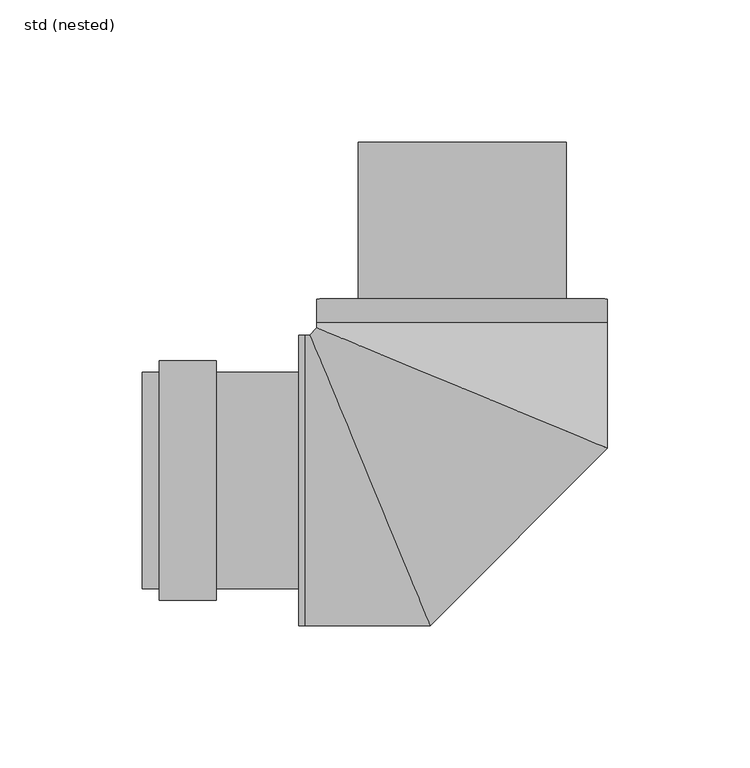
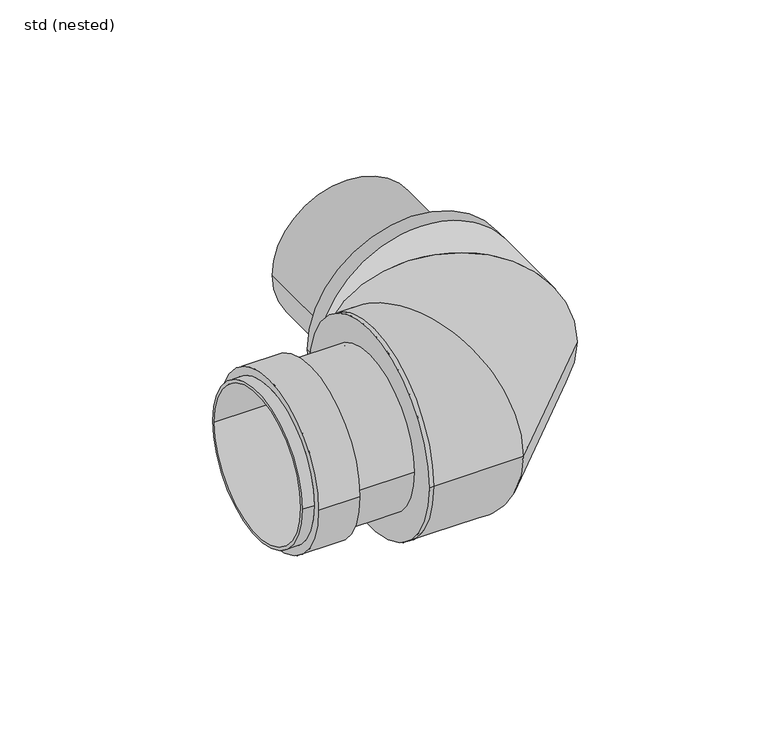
"""IFC4 building model written with IfcOpenShell, lengths in millimetres: pipe fitting geometry, ZZZ_do not use_PIF_ST_WPB_GM-X compound pipe bend_ACO : std (nested)."""

import ifcopenshell
import ifcopenshell.guid

model = None  # the IFC model being written
_history = None  # IfcOwnerHistory: only IFC2X3 demands one
_inside = {}  # id of a spatial element -> (the spatial element, [elements in it])
_under = {}  # id of a project, library or spatial element -> (it, [spatial elements below it])
_declared = {}  # id of a project -> (the project, [libraries it declares])
_typed = {}  # id of a type object -> (the type object, [elements of that type])
_made_of = {}  # id of a material, layer set ... -> (it, [elements and type objects made of it])


def new_model(schema):
    """Start an empty IFC model of exactly this schema.

    Asked for "IFC4X3", IfcOpenShell would pick the latest addendum, in which some entities
    have other attributes; the version numbers below select the first issue.
    IFC2X3 requires an IfcOwnerHistory on every rooted entity: one is made here for all.
    """
    global model, _history
    if schema == "IFC4X3":
        model = ifcopenshell.file(schema_version=(4, 3, 0, 0))
    else:
        model = ifcopenshell.file(schema=schema)
    _inside.clear()
    _under.clear()
    _declared.clear()
    _typed.clear()
    _made_of.clear()
    _history = None
    if model.schema == "IFC2X3":
        org = make("IfcOrganization", Name="unknown")
        user = make(
            "IfcPersonAndOrganization",
            ThePerson=make("IfcPerson", FamilyName="unknown"),
            TheOrganization=org,
        )
        app = make(
            "IfcApplication",
            ApplicationDeveloper=org,
            Version="unknown",
            ApplicationFullName="unknown",
            ApplicationIdentifier="unknown",
        )
        _history = make(
            "IfcOwnerHistory",
            OwningUser=user,
            OwningApplication=app,
            ChangeAction="ADDED",
            CreationDate=0,
        )
    return model


def make(cls, **values):
    """One entity of the class cls with the attributes given. An attribute that is None is left unset."""
    return model.create_entity(
        cls, **{name: value for name, value in values.items() if value is not None}
    )


def rooted(cls, **values):
    """An entity with a GlobalId (a new one), such as an element, a storey or a relation."""
    return make(cls, GlobalId=ifcopenshell.guid.new(), OwnerHistory=_history, **values)


def si_unit(unit_type, name, prefix=None):
    """IfcSIUnit, for example si_unit("LENGTHUNIT", "METRE", prefix="MILLI")."""
    return make("IfcSIUnit", UnitType=unit_type, Prefix=prefix, Name=name)


def assignment(units):
    """IfcUnitAssignment: the units of a project."""
    return None if units is None else make("IfcUnitAssignment", Units=units)


def point(xyz):
    """IfcCartesianPoint."""
    return None if xyz is None else make("IfcCartesianPoint", Coordinates=xyz)


def direction(xyz):
    """IfcDirection."""
    return None if xyz is None else make("IfcDirection", DirectionRatios=xyz)


def frame(location, z_axis=None, x_axis=None):
    """IfcAxis2Placement3D, a coordinate frame: its origin and axes. An axis left out is left unset."""
    return make(
        "IfcAxis2Placement3D",
        Location=point(location),
        Axis=direction(z_axis),
        RefDirection=direction(x_axis),
    )


def frame_2d(location, x_axis=None):
    """IfcAxis2Placement2D, a coordinate frame in the plane: its origin and x axis."""
    return make(
        "IfcAxis2Placement2D", Location=point(location), RefDirection=direction(x_axis)
    )


def origin():
    """The frame at (0, 0, 0) with its axes left unset."""
    return frame((0.0, 0.0, 0.0))


def origin_2d():
    """The frame at (0, 0) in the plane with its x axis left unset."""
    return frame_2d((0.0, 0.0))


def place(relative_to, where):
    """IfcLocalPlacement: puts the frame where relative to a parent placement (None: the world)."""
    return make(
        "IfcLocalPlacement", PlacementRelTo=relative_to, RelativePlacement=where
    )


def context(
    kind, dimensions, precision=None, world=None, true_north=None, identifier=None
):
    """IfcGeometricRepresentationContext, for example the 3D "Model" context."""
    return make(
        "IfcGeometricRepresentationContext",
        ContextIdentifier=identifier,
        ContextType=kind,
        CoordinateSpaceDimension=dimensions,
        Precision=precision,
        WorldCoordinateSystem=world,
        TrueNorth=true_north,
    )


def project(units=None, contexts=None):
    """IfcProject with its units and contexts."""
    return rooted(
        "IfcProject",
        Name="project",
        RepresentationContexts=contexts,
        UnitsInContext=assignment(units),
    )


def spatial(cls, under=None, at=None, **own):
    """A site, building, storey or space (cls), placed at a placement, below another one or the project."""
    s = rooted(cls, ObjectPlacement=at, **own)
    if under is not None:
        _under.setdefault(under.id(), (under, []))[1].append(s)
    return s


def polyline(points):
    """IfcPolyline through the points."""
    return make("IfcPolyline", Points=[point(p) for p in points])


def circle_curve(where, radius):
    """IfcCircle in the frame where."""
    return make("IfcCircle", Position=where, Radius=radius)


def ellipse_curve(where, semi_axis1, semi_axis2):
    """IfcEllipse in the frame where."""
    return make(
        "IfcEllipse", Position=where, SemiAxis1=semi_axis1, SemiAxis2=semi_axis2
    )


def trimmed(basis, trim1, trim2, sense, master):
    """IfcTrimmedCurve: the piece of a basis curve between two trims."""
    return make(
        "IfcTrimmedCurve",
        BasisCurve=basis,
        Trim1=trim1,
        Trim2=trim2,
        SenseAgreement=sense,
        MasterRepresentation=master,
    )


def segment(curve, same_sense, transition):
    """IfcCompositeCurveSegment."""
    return make(
        "IfcCompositeCurveSegment",
        Transition=transition,
        SameSense=same_sense,
        ParentCurve=curve,
    )


def composite_curve(segments, self_intersect=None):
    """IfcCompositeCurve: segments joined end to end."""
    return make("IfcCompositeCurve", Segments=segments, SelfIntersect=self_intersect)


def outline(outer, holes=None, kind="AREA"):
    """IfcArbitraryClosedProfileDef: a profile drawn as a closed curve; with holes, ...WithVoids."""
    if holes is None:
        return make("IfcArbitraryClosedProfileDef", ProfileType=kind, OuterCurve=outer)
    return make(
        "IfcArbitraryProfileDefWithVoids",
        ProfileType=kind,
        OuterCurve=outer,
        InnerCurves=holes,
    )


def extrude(swept, where, along, depth):
    """IfcExtrudedAreaSolid: the profile swept, set in the frame where, extruded along a direction by depth."""
    return make(
        "IfcExtrudedAreaSolid",
        SweptArea=swept,
        Position=where,
        ExtrudedDirection=direction(along),
        Depth=depth,
    )


def shape(context_of_items, identifier, shape_type, items):
    """IfcShapeRepresentation: the items that make up one representation, for example the "Body"."""
    return make(
        "IfcShapeRepresentation",
        ContextOfItems=context_of_items,
        RepresentationIdentifier=identifier,
        RepresentationType=shape_type,
        Items=items,
    )


def source(mapping_origin, context_of_items, identifier, shape_type, items):
    """IfcRepresentationMap: a shape defined once, which mapped items show again and again."""
    return make(
        "IfcRepresentationMap",
        MappingOrigin=mapping_origin,
        MappedRepresentation=shape(context_of_items, identifier, shape_type, items),
    )


def transform(
    local_origin,
    x_axis=None,
    y_axis=None,
    z_axis=None,
    scale=None,
    scale2=None,
    scale3=None,
    uniform=True,
):
    """IfcCartesianTransformationOperator3D, or its non-uniform kind. x_axis, y_axis, z_axis: its Axis1, 2, 3."""
    if uniform:
        return make(
            "IfcCartesianTransformationOperator3D",
            Axis1=direction(x_axis),
            Axis2=direction(y_axis),
            LocalOrigin=point(local_origin),
            Scale=scale,
            Axis3=direction(z_axis),
        )
    return make(
        "IfcCartesianTransformationOperator3DnonUniform",
        Axis1=direction(x_axis),
        Axis2=direction(y_axis),
        LocalOrigin=point(local_origin),
        Scale=scale,
        Axis3=direction(z_axis),
        Scale2=scale2,
        Scale3=scale3,
    )


def mapped(mapping_source, mapping_target):
    """IfcMappedItem: shows the shape of a source again, moved by a transform."""
    return make(
        "IfcMappedItem", MappingSource=mapping_source, MappingTarget=mapping_target
    )


def made_of(thing, what):
    """Note that an element or type object is made of a material, layer set ...; save() writes the relation."""
    if what is not None:
        _made_of.setdefault(what.id(), (what, []))[1].append(thing)
    return thing


def element(
    cls,
    number,
    at=None,
    inside=None,
    cuts=None,
    type_object=None,
    material=None,
    context=None,
    identifier="Body",
    shape_type=None,
    held_by="IfcProductDefinitionShape",
    body=None,
    shapes=None,
    **own,
):
    """One element of the class cls, such as IfcWall. Its Tag is "e" and its number.

    at: its placement. inside: the storey or other place that contains it. cuts: it is an
    opening in that element (IfcRelVoidsElement). A single representation is given by context,
    identifier, shape_type and body (its items); several are given by shapes. held_by: the class
    of the entity that holds the representations. save() writes the other relations.
    """
    e = rooted(cls, Tag="e%d" % number, ObjectPlacement=at, **own)
    if body is not None:
        shapes = [shape(context, identifier, shape_type, body)]
    if shapes is not None:
        e.Representation = make(held_by, Representations=shapes)
    if inside is not None:
        _inside.setdefault(inside.id(), (inside, []))[1].append(e)
    if cuts is not None:
        rooted(
            "IfcRelVoidsElement", RelatingBuildingElement=cuts, RelatedOpeningElement=e
        )
    if type_object is not None:
        _typed.setdefault(type_object.id(), (type_object, []))[1].append(e)
    return made_of(e, material)


def aggregate(whole, parts):
    """IfcRelAggregates: a whole, such as a stair, and the parts it consists of."""
    return rooted("IfcRelAggregates", RelatingObject=whole, RelatedObjects=parts)


def save(model, path):
    """Write the relations noted so far, then the file.

    IfcRelAggregates (storeys below a building ...), IfcRelContainedInSpatialStructure (elements
    in a storey), IfcRelDefinesByType, IfcRelAssociatesMaterial and IfcRelDeclares: one each for
    every whole, place, type object, material and project.
    """
    for whole, parts in _under.values():
        aggregate(whole, parts)
    for where, things in _inside.values():
        rooted(
            "IfcRelContainedInSpatialStructure",
            RelatedElements=things,
            RelatingStructure=where,
        )
    for kind, things in _typed.values():
        rooted("IfcRelDefinesByType", RelatedObjects=things, RelatingType=kind)
    for what, things in _made_of.values():
        rooted("IfcRelAssociatesMaterial", RelatedObjects=things, RelatingMaterial=what)
    for by, libraries in _declared.values():
        rooted("IfcRelDeclares", RelatingContext=by, RelatedDefinitions=libraries)
    model.write(path)


def plane_surface(at):
    """IfcPlane: the flat surface through the origin of the frame at, square to its z axis."""
    return make("IfcPlane", Position=at)


def cylinder_surface(at, radius):
    """IfcCylindricalSurface: all points at the distance radius from the z axis of the frame at."""
    return make("IfcCylindricalSurface", Position=at, Radius=radius)


def revolved_surface(curve, axis_point, axis_direction):
    """IfcSurfaceOfRevolution: the curve turned about the line through axis_point along axis_direction."""
    return make(
        "IfcSurfaceOfRevolution",
        SweptCurve=make("IfcArbitraryOpenProfileDef", ProfileType="CURVE", Curve=curve),
        AxisPosition=make("IfcAxis1Placement", Location=point(axis_point), Axis=direction(axis_direction)),
    )


def advanced_brep(points, edges, surfaces, faces):
    """IfcAdvancedBrep: a solid bounded by faces that lie on surfaces and meet in shared edges.

    An edge is (start, end): straight between two places in points (the first is 0);
    or (start, end, curve); or (start, end, curve, False) where it runs against its curve.
    A face is (place in surfaces, loops), or (place, loops, False) where it looks against
    its surface's normal. A loop lists edges by number (the first is 1), with a minus sign
    where the edge is run from its end to its start. The first loop is the outer one.
    """
    corners = [point(p) for p in points]
    vertices = [make("IfcVertexPoint", VertexGeometry=c) for c in corners]
    made = []
    for start, end, *more in edges:
        made.append(
            make(
                "IfcEdgeCurve",
                EdgeStart=vertices[start],
                EdgeEnd=vertices[end],
                EdgeGeometry=more[0] if more else make("IfcPolyline", Points=[corners[start], corners[end]]),
                SameSense=more[1] if len(more) > 1 else True,
            )
        )
    hull = []
    for where, loops, *sense in faces:
        bounds = []
        for j, loop in enumerate(loops):
            ring = [make("IfcOrientedEdge", EdgeElement=made[abs(k) - 1], Orientation=k > 0) for k in loop]
            bounds.append(
                make(
                    "IfcFaceOuterBound" if j == 0 else "IfcFaceBound",
                    Bound=make("IfcEdgeLoop", EdgeList=ring),
                    Orientation=True,
                )
            )
        hull.append(make("IfcAdvancedFace", Bounds=bounds, FaceSurface=surfaces[where], SameSense=sense[0] if sense else True))
    return make("IfcAdvancedBrep", Outer=make("IfcClosedShell", CfsFaces=hull))


def std_nested_0bc2af1f(model_context):
    return source(origin(), model_context, "Body", "SolidModel", [
        advanced_brep(
        [(-106.4, -42.1, 0.0), (-106.4, 42.1, 0.0), (-86.3, 42.1, 0.0), (-86.3, -42.1, 0.0), (-112.3, 38.0, 0.0), (-112.3, -38.0, 0.0), (-112.3, -36.5, 0.0), (-112.3, 36.5, 0.0), (-57.3, 38.0, 0.0), (-57.3, -38.0, 0.0), (-57.3, 36.5, 0.0), (-57.3, -36.5, 0.0), (-106.4, 38.0, 0.0), (-106.4, -38.0, 0.0), (-86.3, -38.0, 0.0), (-86.3, 38.0, 0.0)],
        [
            (0, 1, circle_curve(frame((-106.4, 0.0, 0.0), z_axis=(1.0, 0.0, 0.0), x_axis=(0.0, -1.0, 0.0)), 42.1)),
            (1, 2),
            (2, 3, circle_curve(frame((-86.3, 0.0, 0.0), z_axis=(-1.0, 0.0, 0.0), x_axis=(0.0, -1.0, 0.0)), 42.1)),
            (3, 0),
            (1, 0, circle_curve(frame((-106.4, 0.0, 0.0), z_axis=(1.0, 0.0, 0.0), x_axis=(0.0, -1.0, 0.0)), 42.1)),
            (3, 2, circle_curve(frame((-86.3, 0.0, 0.0), z_axis=(-1.0, 0.0, 0.0), x_axis=(0.0, -1.0, 0.0)), 42.1)),
            (4, 5, circle_curve(frame((-112.3, 0.0, 0.0), z_axis=(-1.0, 0.0, 0.0), x_axis=(0.0, -1.0, 0.0)), 38.0)),
            (5, 4, circle_curve(frame((-112.3, 0.0, 0.0), z_axis=(-1.0, 0.0, 0.0), x_axis=(0.0, -1.0, 0.0)), 38.0)),
            (6, 7, circle_curve(frame((-112.3, 0.0, 0.0), z_axis=(1.0, 0.0, 0.0), x_axis=(0.0, -1.0, 0.0)), 36.5)),
            (7, 6, circle_curve(frame((-112.3, 0.0, 0.0), z_axis=(1.0, 0.0, 0.0), x_axis=(0.0, -1.0, 0.0)), 36.5)),
            (8, 9, circle_curve(frame((-57.3, 0.0, 0.0), z_axis=(1.0, 0.0, 0.0), x_axis=(0.0, -1.0, 0.0)), 38.0)),
            (9, 8, circle_curve(frame((-57.3, 0.0, 0.0), z_axis=(1.0, 0.0, 0.0), x_axis=(0.0, -1.0, 0.0)), 38.0)),
            (10, 11, circle_curve(frame((-57.3, 0.0, 0.0), z_axis=(-1.0, 0.0, 0.0), x_axis=(0.0, -1.0, 0.0)), 36.5)),
            (11, 10, circle_curve(frame((-57.3, 0.0, 0.0), z_axis=(-1.0, 0.0, 0.0), x_axis=(0.0, -1.0, 0.0)), 36.5)),
            (4, 12),
            (12, 13, circle_curve(frame((-106.4, 0.0, 0.0), z_axis=(-1.0, 0.0, 0.0), x_axis=(0.0, -1.0, 0.0)), 38.0)),
            (13, 5),
            (9, 14),
            (14, 15, circle_curve(frame((-86.3, 0.0, 0.0), z_axis=(1.0, 0.0, 0.0), x_axis=(0.0, -1.0, 0.0)), 38.0)),
            (15, 8),
            (13, 12, circle_curve(frame((-106.4, 0.0, 0.0), z_axis=(-1.0, 0.0, 0.0), x_axis=(0.0, -1.0, 0.0)), 38.0)),
            (15, 14, circle_curve(frame((-86.3, 0.0, 0.0), z_axis=(1.0, 0.0, 0.0), x_axis=(0.0, -1.0, 0.0)), 38.0)),
            (6, 11),
            (10, 7),
        ],
        [
            cylinder_surface(frame((-86.3, 0.0, 0.0), z_axis=(-1.0, 0.0, 0.0), x_axis=(0.0, -1.0, 0.0)), 42.1),
            plane_surface(frame((-112.3, -38.0, 0.0), z_axis=(-1.0, 0.0, 0.0), x_axis=(0.0, 0.0, 1.0))),
            plane_surface(frame((-57.3, -38.0, 0.0), z_axis=(1.0, 0.0, 0.0), x_axis=(0.0, 0.0, -1.0))),
            cylinder_surface(frame((-57.3, 0.0, 0.0), z_axis=(-1.0, 0.0, 0.0), x_axis=(0.0, -1.0, 0.0)), 38.0),
            revolved_surface(polyline([(-112.3, -36.5, 0.0), (-57.3, -36.5, 0.0)]), (-57.3, 0.0, 0.0), (-1.0, 0.0, 0.0)),
            plane_surface(frame((-106.4, -42.1, 0.0), z_axis=(-1.0, 0.0, 0.0), x_axis=(0.0, 0.0, 1.0))),
            plane_surface(frame((-86.3, -42.1, 0.0), z_axis=(1.0, 0.0, 0.0), x_axis=(0.0, 0.0, -1.0))),
        ],
        [
            (0, [[1, 2, 3, 4]]),
            (0, [[5, -4, 6, -2]]),
            (1, [[7, 8], [9, 10]]),
            (2, [[11, 12], [13, 14]]),
            (3, [[-7, 15, 16, 17]]),
            (3, [[-12, 18, 19, 20]]),
            (3, [[-8, -17, 21, -15]]),
            (3, [[-11, -20, 22, -18]]),
            (4, [[23, -13, 24, -9]]),
            (4, [[-23, -10, -24, -14]]),
            (5, [[-1, -5], [-16, -21]]),
            (6, [[-6, -3], [-19, -22]]),
        ],
    ),
        extrude(outline(composite_curve([segment(trimmed(circle_curve(origin_2d(), 36.5), [point((0.0, -36.5))], [point((0.0, 36.5))], False, "CARTESIAN"), True, "CONTINUOUS"), segment(trimmed(circle_curve(origin_2d(), 36.5), [point((0.0, 36.5))], [point((0.0, -36.5))], False, "CARTESIAN"), True, "CONTINUOUS")], self_intersect=False)), frame((0.0, 63.7, 0.0), z_axis=(0.0, 1.0, 0.0), x_axis=(0.0, 0.0, 1.0)), (0.0, 0.0, 1.0), 55.0),
        advanced_brep(
        [(-55.3, -51.0, 0.0), (-55.3, 51.0, 0.0), (-57.3, 51.0, 0.0), (-57.3, -51.0, 0.0), (-11.2690983, -51.0, 0.0), (-53.5188817, 51.0, 0.0), (51.0, 11.2690983, 0.0), (-51.0, 53.5188817, 0.0), (51.0, 55.3, 0.0), (-51.0, 55.3, 0.0), (-51.0, 63.7, 0.0), (51.0, 63.7, 0.0)],
        [
            (0, 1, circle_curve(frame((-55.3, 0.0, 0.0), z_axis=(-1.0, 0.0, 0.0), x_axis=(0.0, 1.0, 0.0)), 51.0)),
            (1, 2),
            (2, 3, circle_curve(frame((-57.3, 0.0, 0.0), z_axis=(1.0, 0.0, 0.0), x_axis=(0.0, 1.0, 0.0)), 51.0)),
            (3, 0),
            (1, 0, circle_curve(frame((-55.3, 0.0, 0.0), z_axis=(-1.0, 0.0, 0.0), x_axis=(0.0, 1.0, 0.0)), 51.0)),
            (3, 2, circle_curve(frame((-57.3, 0.0, 0.0), z_axis=(1.0, 0.0, 0.0), x_axis=(0.0, 1.0, 0.0)), 51.0)),
            (0, 4),
            (4, 5, ellipse_curve(frame((-32.39399, 0.0, 0.0), z_axis=(-0.9238795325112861, -0.38268343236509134, 0.0), x_axis=(-0.38268343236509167, 0.9238795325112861, 0.0)), 55.2020022, 51.0)),
            (5, 1),
            (5, 4, ellipse_curve(frame((-32.39399, 0.0, 0.0), z_axis=(-0.9238795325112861, -0.38268343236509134, 0.0), x_axis=(-0.38268343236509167, 0.9238795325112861, 0.0)), 55.2020022, 51.0)),
            (4, 6),
            (6, 7, ellipse_curve(frame((0.0, 32.39399, 0.0), z_axis=(-0.38268343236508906, -0.9238795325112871, 0.0), x_axis=(-0.923879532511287, 0.38268343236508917, 0.0)), 55.2020022, 51.0)),
            (7, 5),
            (7, 6, ellipse_curve(frame((0.0, 32.39399, 0.0), z_axis=(-0.38268343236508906, -0.9238795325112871, 0.0), x_axis=(-0.923879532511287, 0.38268343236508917, 0.0)), 55.2020022, 51.0)),
            (6, 8),
            (8, 9, circle_curve(frame((0.0, 55.3, 0.0), z_axis=(0.0, -1.0, 0.0), x_axis=(-1.0, 0.0, 0.0)), 51.0)),
            (9, 7),
            (9, 8, circle_curve(frame((0.0, 55.3, 0.0), z_axis=(0.0, -1.0, 0.0), x_axis=(-1.0, 0.0, 0.0)), 51.0)),
            (10, 11, circle_curve(frame((0.0, 63.7, 0.0), z_axis=(0.0, 1.0, 0.0), x_axis=(1.0, 0.0, 0.0)), 51.0)),
            (11, 10, circle_curve(frame((0.0, 63.7, 0.0), z_axis=(0.0, 1.0, 0.0), x_axis=(1.0, 0.0, 0.0)), 51.0)),
            (8, 11),
            (10, 9),
        ],
        [
            cylinder_surface(frame((-55.3, 0.0, 0.0), z_axis=(-1.0, 0.0, 0.0), x_axis=(0.0, 1.0, 0.0)), 51.0),
            cylinder_surface(frame((-32.39399, 0.0, 0.0), z_axis=(-0.7071067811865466, -0.7071067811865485, 0.0), x_axis=(-0.7071067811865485, 0.7071067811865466, 0.0)), 51.0),
            cylinder_surface(frame((0.0, 32.39399, 0.0), z_axis=(0.0, -1.0, 0.0), x_axis=(-1.0, 0.0, 0.0)), 51.0),
            plane_surface(frame((-57.3, 51.0, 0.0), z_axis=(-1.0, 0.0, 0.0), x_axis=(0.0, 0.0, 1.0))),
            plane_surface(frame((51.0, 63.7, 0.0), z_axis=(0.0, 1.0, 0.0), x_axis=(0.0, 0.0, 1.0))),
            cylinder_surface(frame((0.0, 55.3, 0.0), z_axis=(0.0, 1.0, 0.0), x_axis=(1.0, 0.0, 0.0)), 51.0),
        ],
        [
            (0, [[1, 2, 3, 4]]),
            (0, [[5, -4, 6, -2]]),
            (0, [[7, 8, 9, -1]]),
            (0, [[-7, -5, -9, 10]]),
            (1, [[-8, 11, 12, 13]]),
            (1, [[-10, -13, 14, -11]]),
            (2, [[-12, 15, 16, 17]]),
            (2, [[-14, -17, 18, -15]]),
            (3, [[-3, -6]]),
            (4, [[19, 20]]),
            (5, [[-16, 21, -19, 22]]),
            (5, [[-18, -22, -20, -21]]),
        ],
    ),
    ])


if __name__ == "__main__":
    model = new_model("IFC4")
    model_context = context("Model", 3, world=origin())
    ifc_project = project(units=[si_unit("LENGTHUNIT", "METRE", prefix="MILLI")], contexts=[model_context])
    site = spatial("IfcSite", under=ifc_project)
    building = spatial("IfcBuilding", under=site)
    placement = place(None, origin())
    std_nested_shape = std_nested_0bc2af1f(model_context)
    element("IfcPipeFitting", 1, ObjectType="ZZZ_do not use_PIF_ST_WPB_GM-X compound pipe bend_ACO : std (nested)", at=placement, inside=building, context=model_context, shape_type="MappedRepresentation", body=[
        mapped(std_nested_shape, transform((0.0, 0.0, 0.0), x_axis=(1.0, 0.0, 0.0), y_axis=(0.0, 1.0, 0.0), z_axis=(0.0, 0.0, 1.0))),
    ])
    save(model, "model.ifc")
